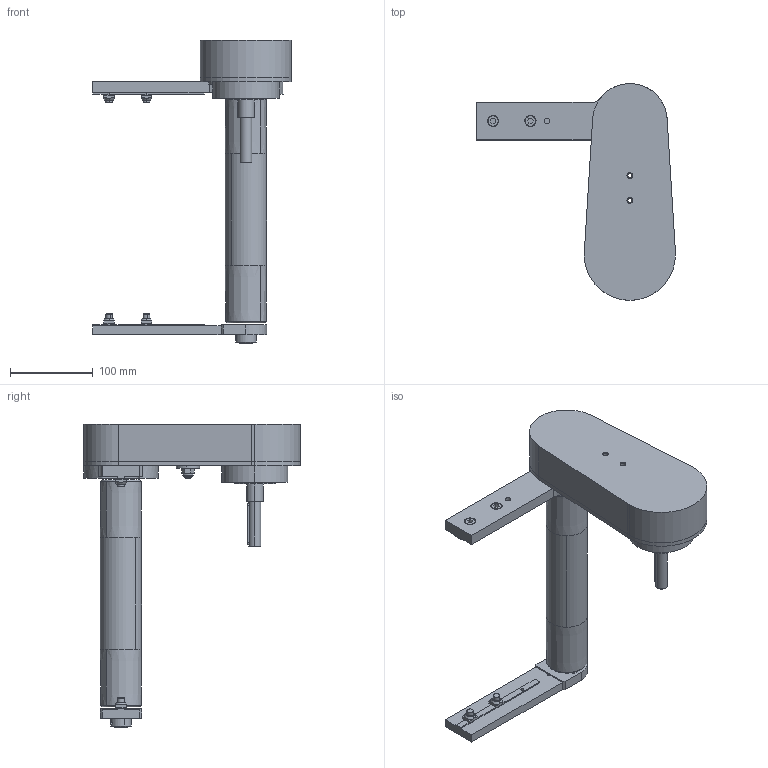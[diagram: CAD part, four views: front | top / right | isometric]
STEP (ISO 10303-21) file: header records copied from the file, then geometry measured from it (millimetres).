
FILE_DESCRIPTION (( 'STEP AP203' ), '1' );
FILE_NAME ('084.050.KTB.30.250.STEP', '2017-09-11T08:10:47', ( 'Localadmin' ), ( 'Microsoft' ), 'SwSTEP 2.0', 'SolidWorks 2016', '' );
FILE_SCHEMA (( 'CONFIG_CONTROL_DESIGN' ));
Length unit declared in the file: millimetre
Products named in the file (1): 084.050.KTB.30.250
Bounding box: 240 x 261.5 x 366 mm (x, y, z)
Surface area: 238877.8 mm2 (no closed solid volume)
Topology: 0 solids, 33 shells, 332 faces, 1044 edges, 740 vertices
Faces by surface type: plane 150, cylinder 128, cone 26, torus 24, sphere 4
Entity records: 12237 total; most frequent: CARTESIAN_POINT 2639, DIRECTION 2150, ORIENTED_EDGE 1710, EDGE_CURVE 1034, AXIS2_PLACEMENT_3D 833, VERTEX_POINT 734, CIRCLE 500, VECTOR 484
